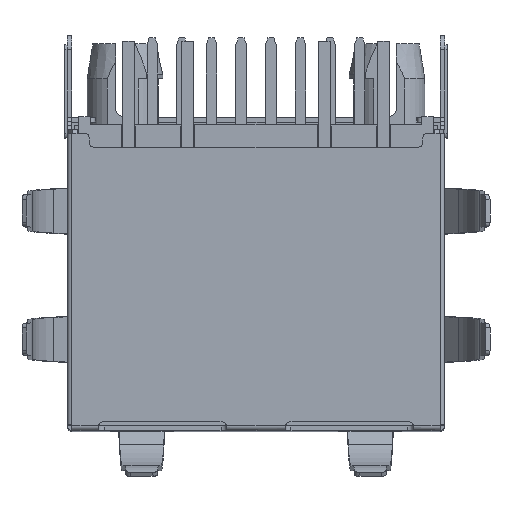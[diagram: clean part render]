
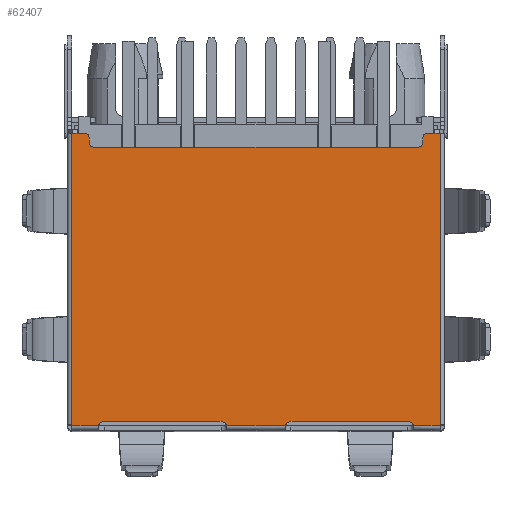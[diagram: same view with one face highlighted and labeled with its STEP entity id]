
A CAD part, top view. The second image highlights one B-rep face of the part: STEP entity #62407.
In plain terms, the highlighted planar face has unit normal (0, 0, 1).
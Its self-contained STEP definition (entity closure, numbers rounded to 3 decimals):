
#54389=CARTESIAN_POINT('',(6.745,-11.95,22.85));
#54415=CARTESIAN_POINT('',(-7.35,0.4,22.85));
#54416=DIRECTION('',(0.,0.,-1.));
#54417=DIRECTION('',(0.,1.,0.));
#54418=AXIS2_PLACEMENT_3D('',#54415,#54416,#54417);
#54420=DIRECTION('',(0.,-1.,0.));
#54421=VECTOR('',#54420,0.2);
#54422=CARTESIAN_POINT('',(-7.15,0.4,22.85));
#54423=LINE('',#54422,#54421);
#54424=CARTESIAN_POINT('',(-6.95,0.2,22.85));
#54425=DIRECTION('',(0.,0.,1.));
#54426=DIRECTION('',(-1.,0.,0.));
#54427=AXIS2_PLACEMENT_3D('',#54424,#54425,#54426);
#54429=DIRECTION('',(1.,0.,0.));
#54430=VECTOR('',#54429,13.9);
#54431=CARTESIAN_POINT('',(-6.95,0.,22.85));
#54432=LINE('',#54431,#54430);
#54433=CARTESIAN_POINT('',(6.95,0.2,22.85));
#54434=DIRECTION('',(0.,0.,1.));
#54435=DIRECTION('',(0.,-1.,0.));
#54436=AXIS2_PLACEMENT_3D('',#54433,#54434,#54435);
#54438=DIRECTION('',(0.,1.,0.));
#54439=VECTOR('',#54438,0.2);
#54440=CARTESIAN_POINT('',(7.15,0.2,22.85));
#54441=LINE('',#54440,#54439);
#54442=CARTESIAN_POINT('',(7.35,0.4,22.85));
#54443=DIRECTION('',(0.,0.,-1.));
#54444=DIRECTION('',(-1.,0.,0.));
#54445=AXIS2_PLACEMENT_3D('',#54442,#54443,#54444);
#54447=DIRECTION('',(1.,0.,0.));
#54448=VECTOR('',#54447,0.55);
#54449=CARTESIAN_POINT('',(7.35,0.6,22.85));
#54450=LINE('',#54449,#54448);
#54451=DIRECTION('',(0.,-1.,0.));
#54452=VECTOR('',#54451,0.05);
#54453=CARTESIAN_POINT('',(7.9,-11.9,22.85));
#54454=LINE('',#54453,#54452);
#54455=DIRECTION('',(-1.,0.,
0.));
#54456=VECTOR('',#54455,1.155);
#54457=CARTESIAN_POINT('',(7.9,-11.95,22.85));
#54458=LINE('',#54457,#54456);
#54459=CARTESIAN_POINT('',(6.5,-12.,22.85));
#54460=DIRECTION('',(0.,0.,1.));
#54461=DIRECTION('',(0.98,0.2,0.));
#54462=AXIS2_PLACEMENT_3D('',#54459,#54460,#54461);
#54464=DIRECTION('',(-1.,0.,0.));
#54465=VECTOR('',#54464,5.);
#54466=CARTESIAN_POINT('',(6.5,-11.75,22.85));
#54467=LINE('',#54466,#54465);
#54468=CARTESIAN_POINT('',(1.5,-12.,22.85));
#54469=DIRECTION('',(0.,0.,1.));
#54470=DIRECTION('',(0.,1.,0.));
#54471=AXIS2_PLACEMENT_3D('',#54468,#54469,#54470);
#54473=CARTESIAN_POINT('',(-1.5,-12.,22.85));
#54474=DIRECTION('',(0.,0.,1.));
#54475=DIRECTION('',(0.98,0.2,0.));
#54476=AXIS2_PLACEMENT_3D('',#54473,#54474,#54475);
#54478=DIRECTION('',(-1.,0.,0.));
#54479=VECTOR('',#54478,5.);
#54480=CARTESIAN_POINT('',(-1.5,-11.75,22.85));
#54481=LINE('',#54480,#54479);
#54482=CARTESIAN_POINT('',(-6.5,-12.,22.85));
#54483=DIRECTION('',(0.,0.,1.));
#54484=DIRECTION('',(0.,1.,0.));
#54485=AXIS2_PLACEMENT_3D('',#54482,#54483,#54484);
#54487=DIRECTION('',(0.,1.,0.));
#54488=VECTOR('',#54487,0.05);
#54489=CARTESIAN_POINT('',(-7.9,-11.95,22.85));
#54490=LINE('',#54489,#54488);
#54491=DIRECTION('',(0.,1.,0.));
#54492=VECTOR('',#54491,12.5);
#54493=CARTESIAN_POINT('',(7.9,-11.9,22.85));
#54494=LINE('',#54493,#54492);
#54561=DIRECTION('',(1.,0.,0.));
#54562=VECTOR('',#54561,2.51);
#54563=CARTESIAN_POINT('',(-1.255,-11.95,
22.85));
#54564=LINE('',#54563,#54562);
#54659=DIRECTION('',(1.,0.,0.));
#54660=VECTOR('',#54659,1.155);
#54661=CARTESIAN_POINT('',(-7.9,-11.95,22.85));
#54662=LINE('',#54661,#54660);
#54663=DIRECTION('',(0.,-1.,0.));
#54664=VECTOR('',#54663,12.5);
#54665=CARTESIAN_POINT('',(-7.9,0.6,22.85));
#54666=LINE('',#54665,#54664);
#54769=DIRECTION('',(-1.,0.,0.));
#54770=VECTOR('',#54769,0.55);
#54771=CARTESIAN_POINT('',(-7.35,0.6,22.85));
#54772=LINE('',#54771,#54770);
#57196=VERTEX_POINT('',#54389);
#58119=CARTESIAN_POINT('',(-7.9,-11.95,22.85));
#58120=VERTEX_POINT('',#58119);
#58123=CARTESIAN_POINT('',(-7.9,-11.9,22.85));
#58124=VERTEX_POINT('',#58123);
#58155=CARTESIAN_POINT('',(-7.15,0.4,22.85));
#58156=VERTEX_POINT('',#58155);
#58157=CARTESIAN_POINT('',(-7.35,0.6,22.85));
#58158=VERTEX_POINT('',#58157);
#58159=CARTESIAN_POINT('',(-7.15,0.2,22.85));
#58160=VERTEX_POINT('',#58159);
#58161=CARTESIAN_POINT('',(-6.95,0.,22.85));
#58162=VERTEX_POINT('',#58161);
#58163=CARTESIAN_POINT('',(6.95,0.,22.85));
#58164=VERTEX_POINT('',#58163);
#58165=CARTESIAN_POINT('',(7.15,0.2,22.85));
#58166=VERTEX_POINT('',#58165);
#58167=CARTESIAN_POINT('',(7.15,0.4,22.85));
#58168=VERTEX_POINT('',#58167);
#58169=CARTESIAN_POINT('',(7.35,0.6,22.85));
#58170=VERTEX_POINT('',#58169);
#58171=CARTESIAN_POINT('',(7.9,0.6,22.85));
#58172=VERTEX_POINT('',#58171);
#58209=CARTESIAN_POINT('',(7.9,-11.9,22.85));
#58210=VERTEX_POINT('',#58209);
#58211=CARTESIAN_POINT('',(7.9,-11.95,22.85));
#58212=VERTEX_POINT('',#58211);
#58233=CARTESIAN_POINT('',(6.5,-11.75,22.85));
#58234=VERTEX_POINT('',#58233);
#58235=CARTESIAN_POINT('',(1.5,-11.75,22.85));
#58236=VERTEX_POINT('',#58235);
#58237=CARTESIAN_POINT('',(1.255,-11.95,22.85));
#58238=VERTEX_POINT('',#58237);
#58239=CARTESIAN_POINT('',(-1.255,-11.95,
22.85));
#58240=VERTEX_POINT('',#58239);
#58241=CARTESIAN_POINT('',(-1.5,-11.75,22.85));
#58242=VERTEX_POINT('',#58241);
#58243=CARTESIAN_POINT('',(-6.5,-11.75,22.85));
#58244=VERTEX_POINT('',#58243);
#58245=CARTESIAN_POINT('',(-6.745,-11.95,22.85));
#58246=VERTEX_POINT('',#58245);
#58247=CARTESIAN_POINT('',(-7.9,0.6,22.85));
#58248=VERTEX_POINT('',#58247);
#62367=CARTESIAN_POINT('',(0.,-5.675,22.85));
#62368=DIRECTION('',(0.,0.,1.));
#62369=DIRECTION('',(0.,1.,0.));
#62370=AXIS2_PLACEMENT_3D('',#62367,#62368,#62369);
#62371=PLANE('',#62370);
#62372=ORIENTED_EDGE('',*,*,#61851,.T.);
#62373=ORIENTED_EDGE('',*,*,#61867,.T.);
#62374=ORIENTED_EDGE('',*,*,#61881,.T.);
#62375=ORIENTED_EDGE('',*,*,#61895,.T.);
#62376=ORIENTED_EDGE('',*,*,#61909,.T.);
#62377=ORIENTED_EDGE('',*,*,#61921,.T.);
#62378=ORIENTED_EDGE('',*,*,#61936,.T.);
#62379=ORIENTED_EDGE('',*,*,#61951,.T.);
#62381=ORIENTED_EDGE('',*,*,#62380,.F.);
#62382=ORIENTED_EDGE('',*,*,#62114,.T.);
#62383=ORIENTED_EDGE('',*,*,#62307,.T.);
#62385=ORIENTED_EDGE('',*,*,#62384,.T.);
#62387=ORIENTED_EDGE('',*,*,#62386,.T.);
#62389=ORIENTED_EDGE('',*,*,#62388,.T.);
#62391=ORIENTED_EDGE('',*,*,#62390,.F.);
#62393=ORIENTED_EDGE('',*,*,#62392,.T.);
#62395=ORIENTED_EDGE('',*,*,#62394,.T.);
#62397=ORIENTED_EDGE('',*,*,#62396,.T.);
#62399=ORIENTED_EDGE('',*,*,#62398,.F.);
#62400=ORIENTED_EDGE('',*,*,#61789,.T.);
#62402=ORIENTED_EDGE('',*,*,#62401,.F.);
#62404=ORIENTED_EDGE('',*,*,#62403,.F.);
#62405=EDGE_LOOP('',(#62372,#62373,#62374,#62375,#62376,#62377,#62378,#62379,
#62381,#62382,#62383,#62385,#62387,#62389,#62391,#62393,#62395,#62397,#62399,
#62400,#62402,#62404));
#62406=FACE_OUTER_BOUND('',#62405,.F.);
#62407=ADVANCED_FACE('',(#62406),#62371,.T.);
#54419=CIRCLE('',#54418,0.2);
#54428=CIRCLE('',#54427,0.2);
#54437=CIRCLE('',#54436,0.2);
#54446=CIRCLE('',#54445,0.2);
#54463=CIRCLE('',#54462,0.25);
#54472=CIRCLE('',#54471,0.25);
#54477=CIRCLE('',#54476,0.25);
#54486=CIRCLE('',#54485,0.25);
#61789=EDGE_CURVE('',#58120,#58124,#54490,.T.);
#61851=EDGE_CURVE('',#58158,#58156,#54419,.T.);
#61867=EDGE_CURVE('',#58156,#58160,#54423,.T.);
#61881=EDGE_CURVE('',#58160,#58162,#54428,.T.);
#61895=EDGE_CURVE('',#58162,#58164,#54432,.T.);
#61909=EDGE_CURVE('',#58164,#58166,#54437,.T.);
#61921=EDGE_CURVE('',#58166,#58168,#54441,.T.);
#61936=EDGE_CURVE('',#58168,#58170,#54446,.T.);
#61951=EDGE_CURVE('',#58170,#58172,#54450,.T.);
#62114=EDGE_CURVE('',#58210,#58212,#54454,.T.);
#62307=EDGE_CURVE('',#58212,#57196,#54458,.T.);
#62380=EDGE_CURVE('',#58210,#58172,#54494,.T.);
#62384=EDGE_CURVE('',#57196,#58234,#54463,.T.);
#62386=EDGE_CURVE('',#58234,#58236,#54467,.T.);
#62388=EDGE_CURVE('',#58236,#58238,#54472,.T.);
#62390=EDGE_CURVE('',#58240,#58238,#54564,.T.);
#62392=EDGE_CURVE('',#58240,#58242,#54477,.T.);
#62394=EDGE_CURVE('',#58242,#58244,#54481,.T.);
#62396=EDGE_CURVE('',#58244,#58246,#54486,.T.);
#62398=EDGE_CURVE('',#58120,#58246,#54662,.T.);
#62401=EDGE_CURVE('',#58248,#58124,#54666,.T.);
#62403=EDGE_CURVE('',#58158,#58248,#54772,.T.);
